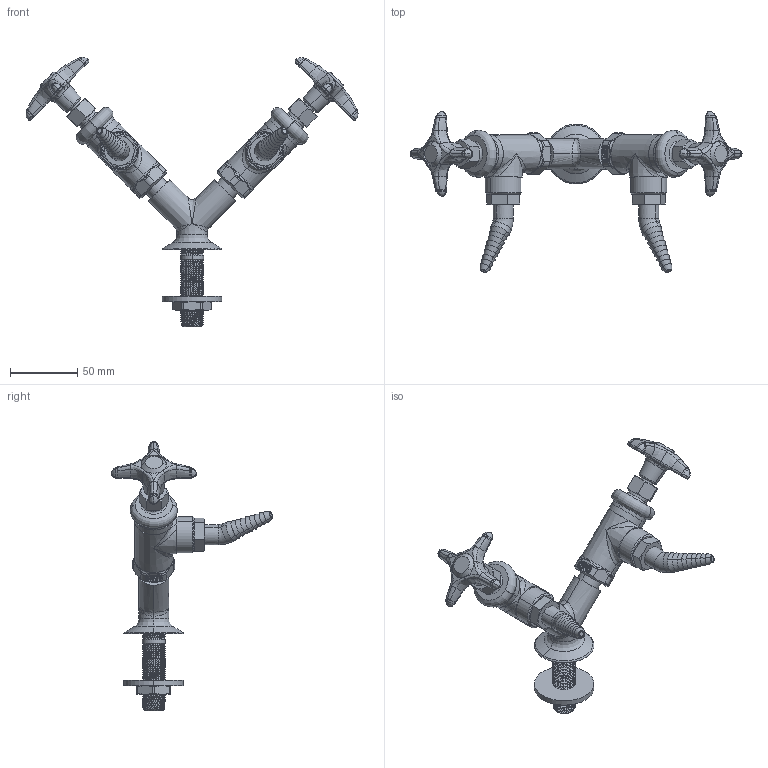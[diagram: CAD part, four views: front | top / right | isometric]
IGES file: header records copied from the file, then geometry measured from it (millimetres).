
Start section:  PTC IGES file: LGF3-A22H-65.igs
Global section: file name: LGF3-A22H-65.igs; native system: Creo Parametric by PTC Inc.; preprocessor: 2014500; author: usch_engrender; organization: Unknown; date: 20160113.161603; units: inch
Bounding box: 247.39 x 120.39 x 200.62 mm (x, y, z)
Volume: 178649.5 mm3; surface area: 71619.6 mm2
Topology: 1 solids, 10 shells, 1309 faces, 3019 edges, 1778 vertices
Faces by surface type: bspline 719, revolution 590
